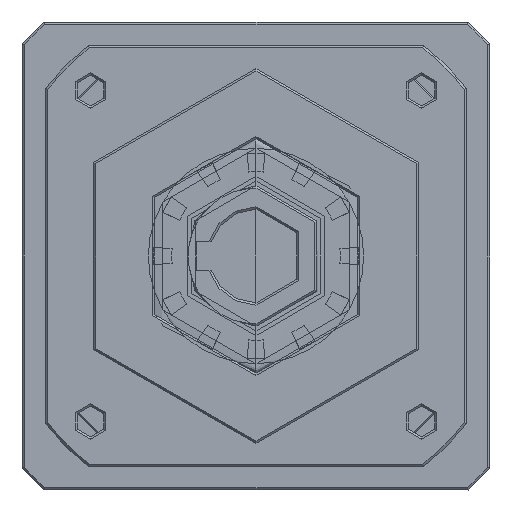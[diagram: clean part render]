
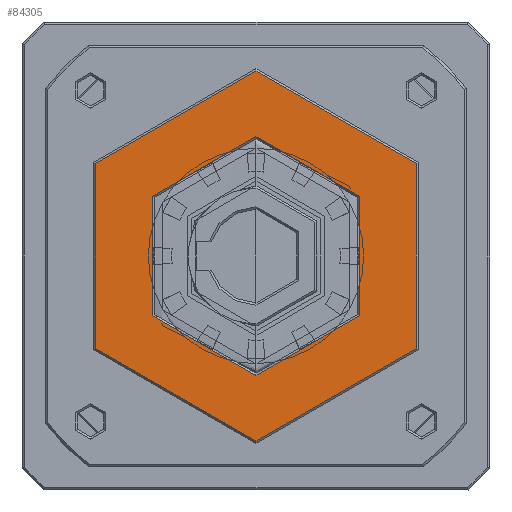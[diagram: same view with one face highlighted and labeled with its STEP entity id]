
A CAD part, left-side view. The second image highlights one B-rep face of the part: STEP entity #84305.
In plain terms, the highlighted planar face has unit normal (-1, 0, 0).
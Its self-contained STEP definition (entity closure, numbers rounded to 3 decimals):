
#60 = VERTEX_POINT ( 'NONE', #32578 ) ;
#1820 = EDGE_CURVE ( 'NONE', #44118, #20452, #25120, .T. ) ;
#5378 = EDGE_CURVE ( 'NONE', #20452, #44118, #38720, .T. ) ;
#6329 = AXIS2_PLACEMENT_3D ( 'NONE', #69503, #20313, #13637 ) ;
#6635 = ORIENTED_EDGE ( 'NONE', *, *, #1820, .T. ) ;
#6863 = CARTESIAN_POINT ( 'NONE',  ( 0., 0., 0. ) ) ;
#9588 = AXIS2_PLACEMENT_3D ( 'NONE', #62625, #21566, #20683 ) ;
#13637 = DIRECTION ( 'NONE',  ( 0., 0., -1. ) ) ;
#18938 = CIRCLE ( 'NONE', #42995, 25.5 ) ;
#20313 = DIRECTION ( 'NONE',  ( 1., 0., 0. ) ) ;
#20452 = VERTEX_POINT ( 'NONE', #88889 ) ;
#20683 = DIRECTION ( 'NONE',  ( 0., 0., -1. ) ) ;
#21566 = DIRECTION ( 'NONE',  ( -1., 0., 0. ) ) ;
#23605 = VERTEX_POINT ( 'NONE', #32075 ) ;
#24384 = DIRECTION ( 'NONE',  ( 0., 0., 1. ) ) ;
#24884 = CARTESIAN_POINT ( 'NONE',  ( 0., 0., 0. ) ) ;
#25120 = CIRCLE ( 'NONE', #40660, 39.5 ) ;
#28379 = ORIENTED_EDGE ( 'NONE', *, *, #5378, .T. ) ;
#32075 = CARTESIAN_POINT ( 'NONE',  ( 0., 0., 25.5 ) ) ;
#32578 = CARTESIAN_POINT ( 'NONE',  ( 0., 0., -25.5 ) ) ;
#33964 = ORIENTED_EDGE ( 'NONE', *, *, #59377, .F. ) ;
#34038 = DIRECTION ( 'NONE',  ( 0., 0., 1. ) ) ;
#35338 = PLANE ( 'NONE',  #6329 ) ;
#38720 = CIRCLE ( 'NONE', #9588, 39.5 ) ;
#39454 = EDGE_CURVE ( 'NONE', #60, #23605, #18938, .T. ) ;
#40660 = AXIS2_PLACEMENT_3D ( 'NONE', #24884, #61717, #73171 ) ;
#42995 = AXIS2_PLACEMENT_3D ( 'NONE', #6863, #89027, #34038 ) ;
#44118 = VERTEX_POINT ( 'NONE', #61049 ) ;
#45838 = AXIS2_PLACEMENT_3D ( 'NONE', #86875, #66636, #24384 ) ;
#47987 = CIRCLE ( 'NONE', #45838, 25.5 ) ;
#49468 = FACE_BOUND ( 'NONE', #63797, .T. ) ;
#59377 = EDGE_CURVE ( 'NONE', #23605, #60, #47987, .T. ) ;
#60304 = FACE_OUTER_BOUND ( 'NONE', #88301, .T. ) ;
#61049 = CARTESIAN_POINT ( 'NONE',  ( 0., 0., -39.5 ) ) ;
#61717 = DIRECTION ( 'NONE',  ( -1., 0., 0. ) ) ;
#62625 = CARTESIAN_POINT ( 'NONE',  ( 0., 0., 0. ) ) ;
#63797 = EDGE_LOOP ( 'NONE', ( #33964, #82894 ) ) ;
#66636 = DIRECTION ( 'NONE',  ( -1., 0., 0. ) ) ;
#69503 = CARTESIAN_POINT ( 'NONE',  ( 0., -39.974, 39.974 ) ) ;
#73171 = DIRECTION ( 'NONE',  ( 0., 0., -1. ) ) ;
#82894 = ORIENTED_EDGE ( 'NONE', *, *, #39454, .F. ) ;
#84305 = ADVANCED_FACE ( 'NONE', ( #49468, #60304 ), #35338, .F. ) ;
#86875 = CARTESIAN_POINT ( 'NONE',  ( 0., 0., 0. ) ) ;
#88301 = EDGE_LOOP ( 'NONE', ( #6635, #28379 ) ) ;
#88889 = CARTESIAN_POINT ( 'NONE',  ( 0., 0., 39.5 ) ) ;
#89027 = DIRECTION ( 'NONE',  ( -1., 0., 0. ) ) ;
